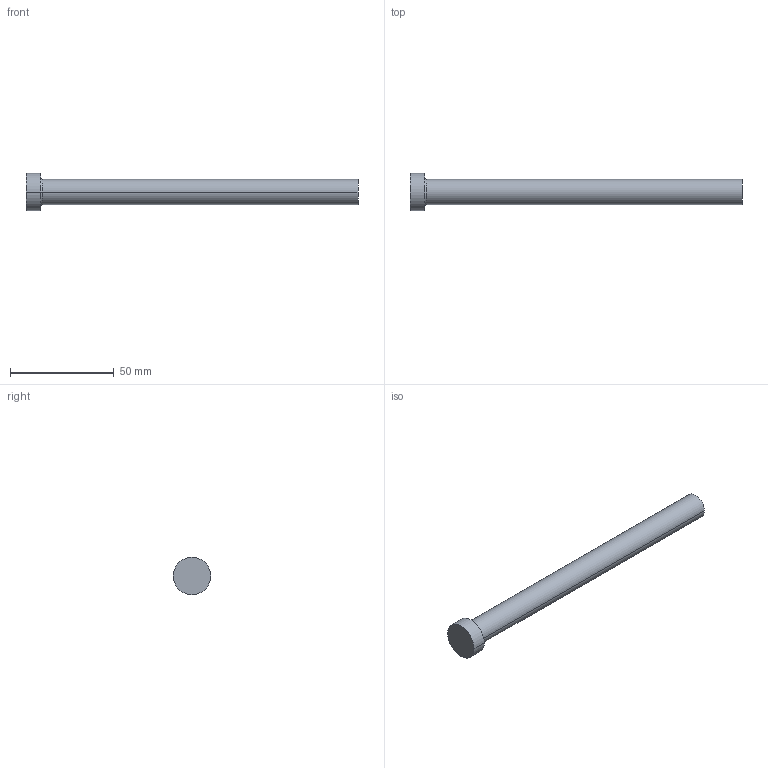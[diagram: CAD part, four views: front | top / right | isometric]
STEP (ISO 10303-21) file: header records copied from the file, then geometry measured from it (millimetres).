
FILE_DESCRIPTION (( 'STEP AP214' ), '1' );
FILE_NAME ('A-12,2x160.STEP', '2020-05-29T16:07:32', ( 'August' ), ( '' ), 'SwSTEP 2.0', 'SolidWorks 2018', '' );
FILE_SCHEMA (( 'AUTOMOTIVE_DESIGN' ));
Length unit declared in the file: millimetre
Products named in the file (1): A-12,2x160
Bounding box: 160 x 18 x 18 mm (x, y, z)
Volume: 19672.2 mm3; surface area: 6756 mm2
Topology: 1 solids, 1 shells, 9 faces, 16 edges, 10 vertices
Faces by surface type: cylinder 4, plane 3, torus 2
Entity records: 260 total; most frequent: DIRECTION 48, CARTESIAN_POINT 36, ORIENTED_EDGE 32, AXIS2_PLACEMENT_3D 22, EDGE_CURVE 16, CIRCLE 12, VERTEX_POINT 10, EDGE_LOOP 10
